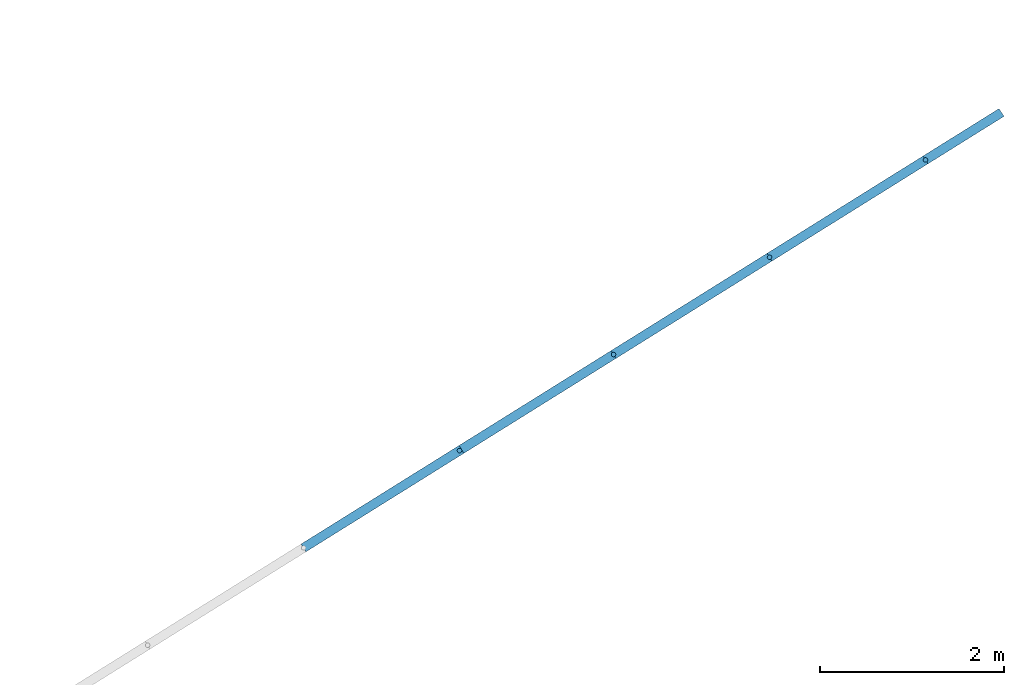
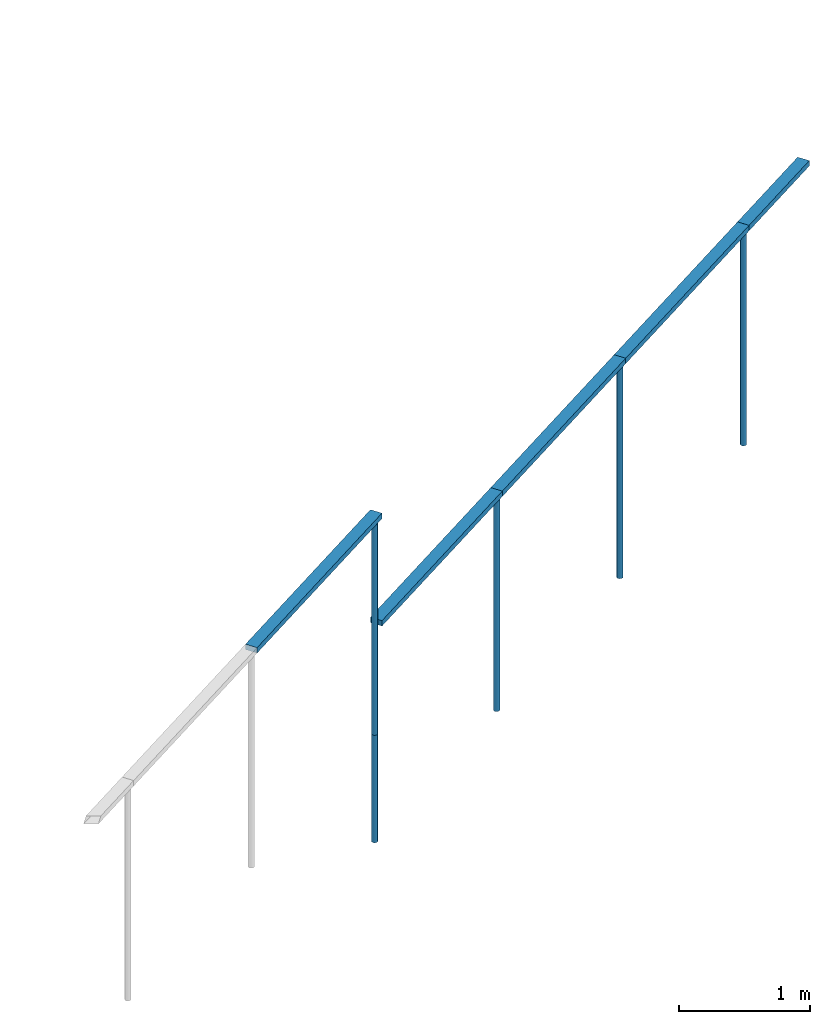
# One storey, part 3 of 3: 10 members, 2 elements without a shape of their own.
"""IFC2X3 building model written with IfcOpenShell, lengths in metres."""

from ifc_helpers import new_model, entity, si_unit, converted_unit, derived_unit, direction, frame, frame_2d, origin, origin_2d_with_axis, place, context, subcontext, project, spatial, rectangle, circle, extrude, clip, halfspace, source, transform, mapped, material, type_object, type_shapes, element, aggregate, save


model = new_model("IFC2X3")

# Units and contexts
model_context = context("Model", 3, precision=1e-05, world=origin(), true_north=direction((6.123031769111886e-17, 1.0)))
body_context = subcontext(model_context, "Body", "Model", "MODEL_VIEW")
ifc_project = project(units=[si_unit("LENGTHUNIT", "METRE"), si_unit("AREAUNIT", "SQUARE_METRE"), si_unit("VOLUMEUNIT", "CUBIC_METRE"), converted_unit("PLANEANGLEUNIT", "DEGREE", entity("IfcRatioMeasure", 0.017453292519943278), si_unit("PLANEANGLEUNIT", "RADIAN"), dimensions=[0, 0, 0, 0, 0, 0, 0]), si_unit("MASSUNIT", "GRAM", prefix="KILO"), derived_unit("MASSDENSITYUNIT", [(si_unit("MASSUNIT", "GRAM", prefix="KILO"), 1), (si_unit("LENGTHUNIT", "METRE"), -3)]), derived_unit("IONCONCENTRATIONUNIT", [(si_unit("MASSUNIT", "GRAM", prefix="KILO"), 1), (si_unit("LENGTHUNIT", "METRE"), -3)]), derived_unit("MOMENTOFINERTIAUNIT", [(si_unit("LENGTHUNIT", "METRE"), 4)]), si_unit("TIMEUNIT", "SECOND"), si_unit("FREQUENCYUNIT", "HERTZ"), si_unit("THERMODYNAMICTEMPERATUREUNIT", "DEGREE_CELSIUS"), derived_unit("THERMALTRANSMITTANCEUNIT", [(si_unit("MASSUNIT", "GRAM", prefix="KILO"), 1), (si_unit("THERMODYNAMICTEMPERATUREUNIT", "KELVIN"), -1), (si_unit("TIMEUNIT", "SECOND"), -3)]), derived_unit("THERMALCONDUCTANCEUNIT", [(si_unit("MASSUNIT", "GRAM", prefix="KILO"), 1), (si_unit("THERMODYNAMICTEMPERATUREUNIT", "KELVIN"), -1), (si_unit("TIMEUNIT", "SECOND"), -3), (si_unit("LENGTHUNIT", "METRE"), 1)]), derived_unit("VOLUMETRICFLOWRATEUNIT", [(si_unit("LENGTHUNIT", "METRE"), 3), (si_unit("TIMEUNIT", "SECOND"), -1)]), derived_unit("MASSFLOWRATEUNIT", [(si_unit("MASSUNIT", "GRAM", prefix="KILO"), 1), (si_unit("TIMEUNIT", "SECOND"), -1)]), derived_unit("ROTATIONALFREQUENCYUNIT", [(si_unit("TIMEUNIT", "SECOND"), -1)]), si_unit("ELECTRICCURRENTUNIT", "AMPERE"), si_unit("ELECTRICVOLTAGEUNIT", "VOLT"), si_unit("POWERUNIT", "WATT"), si_unit("FORCEUNIT", "NEWTON", prefix="KILO"), si_unit("ILLUMINANCEUNIT", "LUX"), si_unit("LUMINOUSFLUXUNIT", "LUMEN"), si_unit("LUMINOUSINTENSITYUNIT", "CANDELA"), derived_unit("USERDEFINED", [(si_unit("MASSUNIT", "GRAM", prefix="KILO"), -1), (si_unit("LENGTHUNIT", "METRE"), -2), (si_unit("TIMEUNIT", "SECOND"), 3), (si_unit("LUMINOUSFLUXUNIT", "LUMEN"), 1)]), derived_unit("USERDEFINED", [(si_unit("MASSUNIT", "GRAM", prefix="KILO"), 1), (si_unit("TIMEUNIT", "SECOND"), -3), (si_unit("LENGTHUNIT", "METRE"), 3), (si_unit("ELECTRICCURRENTUNIT", "AMPERE"), -2)]), derived_unit("SOUNDPOWERUNIT", [(si_unit("MASSUNIT", "GRAM", prefix="KILO"), 1), (si_unit("TIMEUNIT", "SECOND"), -3), (si_unit("LENGTHUNIT", "METRE"), 2)]), derived_unit("SOUNDPRESSUREUNIT", [(si_unit("MASSUNIT", "GRAM", prefix="KILO"), 1), (si_unit("LENGTHUNIT", "METRE"), -1), (si_unit("TIMEUNIT", "SECOND"), -2)]), derived_unit("LINEARVELOCITYUNIT", [(si_unit("LENGTHUNIT", "METRE"), 1), (si_unit("TIMEUNIT", "SECOND"), -1)]), si_unit("PRESSUREUNIT", "PASCAL"), derived_unit("USERDEFINED", [(si_unit("MASSUNIT", "GRAM", prefix="KILO"), 1), (si_unit("LENGTHUNIT", "METRE"), -2), (si_unit("TIMEUNIT", "SECOND"), -2)]), derived_unit("LINEARFORCEUNIT", [(si_unit("MASSUNIT", "GRAM", prefix="KILO"), 1), (si_unit("TIMEUNIT", "SECOND"), -2)]), derived_unit("PLANARFORCEUNIT", [(si_unit("MASSUNIT", "GRAM", prefix="KILO"), 1), (si_unit("LENGTHUNIT", "METRE"), -1), (si_unit("TIMEUNIT", "SECOND"), -2)]), derived_unit("SPECIFICHEATCAPACITYUNIT", [(si_unit("THERMODYNAMICTEMPERATUREUNIT", "KELVIN"), -1), (si_unit("LENGTHUNIT", "METRE"), 2), (si_unit("TIMEUNIT", "SECOND"), -2)]), derived_unit("HEATINGVALUEUNIT", [(si_unit("LENGTHUNIT", "METRE"), 2), (si_unit("TIMEUNIT", "SECOND"), -2)]), derived_unit("VAPORPERMEABILITYUNIT", [(si_unit("LENGTHUNIT", "METRE"), -1), (si_unit("TIMEUNIT", "SECOND"), 1)]), derived_unit("DYNAMICVISCOSITYUNIT", [(si_unit("MASSUNIT", "GRAM", prefix="KILO"), 1), (si_unit("TIMEUNIT", "SECOND"), -1), (si_unit("LENGTHUNIT", "METRE"), -1)]), derived_unit("THERMALEXPANSIONCOEFFICIENTUNIT", [(si_unit("THERMODYNAMICTEMPERATUREUNIT", "KELVIN"), -1)]), derived_unit("MODULUSOFELASTICITYUNIT", [(si_unit("MASSUNIT", "GRAM", prefix="KILO"), 1), (si_unit("LENGTHUNIT", "METRE"), -1), (si_unit("TIMEUNIT", "SECOND"), -2)]), derived_unit("ISOTHERMALMOISTURECAPACITYUNIT", [(si_unit("LENGTHUNIT", "METRE"), 3), (si_unit("MASSUNIT", "GRAM", prefix="KILO"), -1)]), derived_unit("MOISTUREDIFFUSIVITYUNIT", [(si_unit("TIMEUNIT", "SECOND"), -1), (si_unit("LENGTHUNIT", "METRE"), 2)])], contexts=[model_context])

# Site, building, storey
site_placement = place(None, origin())
site = spatial("IfcSite", under=ifc_project, at=site_placement, Name="Superficie", CompositionType="ELEMENT")
building_placement = place(site_placement, frame((0.0, 0.0, 235.0), z_axis=(0.0, 0.0, 1.0), x_axis=(-0.7996477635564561, 0.6004693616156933, 0.0)))
building = spatial("IfcBuilding", under=site, at=building_placement, CompositionType="ELEMENT")
storey_placement = place(building_placement, frame((0.0, 0.0, 3.400000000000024)))
storey = spatial("IfcBuildingStorey", under=building, at=storey_placement, Name="PC- Coberta STR", CompositionType="ELEMENT", Elevation=3.400000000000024)

# Curtain wall, members
curtain_wall_type = type_object("IfcCurtainWallType", Name="Muro cortina:SER EXT- Tanca exterior", PredefinedType="NOTDEFINED")
curtain_wall_1_placement = place(storey_placement, frame((0.0, 0.0, -3.400000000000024)))
curtain_wall_1 = element("IfcCurtainWall", 1, at=curtain_wall_1_placement, inside=storey, type_object=curtain_wall_type, Name="Muro cortina:SER EXT- Tanca exterior", ObjectType="Muro cortina:SER EXT- Tanca exterior")
ifc_material_1 = material(Name="Acero inoxidable")
member_type_1 = type_object("IfcMemberType", Name="Montante circular:Perfil Tanca exterior", PredefinedType="MULLION", material=ifc_material_1)
shared_shape_1 = source(origin(), body_context, "Body", "SweptSolid", [
    extrude(circle(Radius=0.025, at=frame_2d((-2.1149748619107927e-18, -4.0388614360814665e-17), x_axis=(1.0, 0.0))), frame((0.0, 0.0, -2.0), z_axis=(0.0, 0.0, 1.0), x_axis=(-1.0, 0.0, 0.0)), (0.0, 0.0, 1.0), 1.9999999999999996),
])
type_shapes(member_type_1, [shared_shape_1])
member_1_placement = place(curtain_wall_1_placement, frame((-8.929779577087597, -35.10367742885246, -3.974999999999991), z_axis=(0.0, 0.0, -1.0), x_axis=(-0.3606379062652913, -0.9327059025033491, 0.0)))
member_1 = element("IfcMember", 2, at=member_1_placement, type_object=member_type_1, material=ifc_material_1, Name="Montante circular:Perfil Tanca exterior", ObjectType="Montante circular:Perfil Tanca exterior", context=body_context, shape_type="MappedRepresentation", body=[
    mapped(shared_shape_1, transform((0.0, 0.0, 0.0), scale=1.0)),
])
member_2_placement = place(curtain_wall_1_placement, frame((-9.651055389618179, -36.969089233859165, -3.974999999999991), z_axis=(0.0, 0.0, -1.0), x_axis=(-0.3606379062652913, -0.9327059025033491, 0.0)))
member_2 = element("IfcMember", 3, at=member_2_placement, type_object=member_type_1, material=ifc_material_1, Name="Montante circular:Perfil Tanca exterior", ObjectType="Montante circular:Perfil Tanca exterior", context=body_context, shape_type="MappedRepresentation", body=[
    mapped(shared_shape_1, transform((0.0, 0.0, 0.0), scale=1.0)),
])
member_3_placement = place(curtain_wall_1_placement, frame((-10.37233120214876, -38.83450103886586, -3.974999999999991), z_axis=(0.0, 0.0, -1.0), x_axis=(-0.3606379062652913, -0.9327059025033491, 0.0)))
member_3 = element("IfcMember", 4, at=member_3_placement, type_object=member_type_1, material=ifc_material_1, Name="Montante circular:Perfil Tanca exterior", ObjectType="Montante circular:Perfil Tanca exterior", context=body_context, shape_type="MappedRepresentation", body=[
    mapped(shared_shape_1, transform((0.0, 0.0, 0.0), scale=1.0)),
])

# Curtain wall, member
curtain_wall_2_placement = place(storey_placement, frame((0.0, 0.0, -3.400000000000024)))
curtain_wall_2 = element("IfcCurtainWall", 5, at=curtain_wall_2_placement, inside=storey, type_object=curtain_wall_type, Name="Muro cortina:SER EXT- Tanca exterior", ObjectType="Muro cortina:SER EXT- Tanca exterior")
member_type_2 = type_object("IfcMemberType", Name="Montante circular:Perfil Tanca exterior", PredefinedType="MULLION", material=ifc_material_1)
shared_shape_2 = source(origin(), body_context, "Body", "SweptSolid", [
    extrude(circle(Radius=0.025, at=frame_2d((1.3661718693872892e-31, -4.46185640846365e-17), x_axis=(1.0, 0.0))), frame((-0.025, 0.0, -2.0), z_axis=(0.0, 0.0, 1.0), x_axis=(-1.0, 0.0, 0.0)), (0.0, 0.0, 1.0), 1.9999999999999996),
])
type_shapes(member_type_2, [shared_shape_2])
member_4_placement = place(curtain_wall_2_placement, frame((-8.226535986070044, -33.284900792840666, -2.974999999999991), z_axis=(0.0, 0.0, -1.0), x_axis=(-0.36065095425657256, -0.9327008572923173, 0.0)))
member_4 = element("IfcMember", 6, at=member_4_placement, type_object=member_type_2, material=ifc_material_1, Name="Montante circular:Perfil Tanca exterior", ObjectType="Montante circular:Perfil Tanca exterior", context=body_context, shape_type="MappedRepresentation", body=[
    mapped(shared_shape_2, transform((0.0, 0.0, 0.0), scale=1.0)),
])

# Member
member_type_3 = type_object("IfcMemberType", Name="Montante circular:Perfil Tanca exterior", PredefinedType="MULLION", material=ifc_material_1)
shared_shape_3 = source(origin(), body_context, "Body", "SweptSolid", [
    extrude(circle(Radius=0.025, at=frame_2d((-1.304992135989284e-31, 4.038861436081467e-17), x_axis=(1.0, 0.0))), frame((-0.025, 0.0, -2.0500000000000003)), (0.0, 0.0, 1.0), 2.0500000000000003),
])
type_shapes(member_type_3, [shared_shape_3])
member_5_placement = place(curtain_wall_1_placement, frame((-8.208503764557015, -33.23826562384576, -1.9249999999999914), z_axis=(0.0, 0.0, 1.0), x_axis=(0.3606379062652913, 0.9327059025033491, 0.0)))
member_5 = element("IfcMember", 7, at=member_5_placement, type_object=member_type_3, material=ifc_material_1, Name="Montante circular:Perfil Tanca exterior", ObjectType="Montante circular:Perfil Tanca exterior", context=body_context, shape_type="MappedRepresentation", body=[
    mapped(shared_shape_3, transform((0.0, 0.0, 0.0), scale=1.0)),
])

ifc_material_2 = material(Name="_Formigó- Solera- T1- STR")
member_type_4 = type_object("IfcMemberType", Name="Montante rectangular:Montante rectangular 100x50", PredefinedType="MULLION", material=ifc_material_2)
shared_shape_4 = source(origin(), body_context, "Body", "SweptSolid", [
    extrude(rectangle(XDim=0.1, YDim=0.05000000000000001, at=origin_2d_with_axis()), frame((-0.025000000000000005, 0.0, -1.9500000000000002), z_axis=(0.0, 0.0, 1.0), x_axis=(0.0, -1.0, 0.0)), (0.0, 0.0, 1.0), 1.9500000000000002),
])
type_shapes(member_type_4, [shared_shape_4])
member_6_placement = place(curtain_wall_1_placement, frame((-8.929779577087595, -35.10367742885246, -1.9249999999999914), z_axis=(-0.3606379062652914, -0.9327059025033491, 0.0), x_axis=(0.0, 0.0, 1.0)))
member_6 = element("IfcMember", 8, at=member_6_placement, type_object=member_type_4, material=ifc_material_2, Name="Montante rectangular:Montante rectangular 100x50", ObjectType="Montante rectangular:Montante rectangular 100x50", context=body_context, shape_type="MappedRepresentation", body=[
    mapped(shared_shape_4, transform((0.0, 0.0, 0.0), scale=1.0)),
])

member_type_5 = type_object("IfcMemberType", Name="Montante rectangular:Montante rectangular 100x50", PredefinedType="MULLION", material=ifc_material_2)
shared_shape_5 = source(origin(), body_context, "Body", "SweptSolid", [
    extrude(rectangle(XDim=0.1, YDim=0.05000000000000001, at=origin_2d_with_axis()), frame((-0.025000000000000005, 0.0, -2.0), z_axis=(0.0, 0.0, 1.0), x_axis=(0.0, -1.0, 0.0)), (0.0, 0.0, 1.0), 2.0000000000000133),
])
type_shapes(member_type_5, [shared_shape_5])
member_7_placement = place(curtain_wall_1_placement, frame((-9.65105538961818, -36.969089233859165, -1.9249999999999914), z_axis=(-0.3606379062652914, -0.9327059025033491, 0.0), x_axis=(0.0, 0.0, 1.0)))
member_7 = element("IfcMember", 9, at=member_7_placement, type_object=member_type_5, material=ifc_material_2, Name="Montante rectangular:Montante rectangular 100x50", ObjectType="Montante rectangular:Montante rectangular 100x50", context=body_context, shape_type="MappedRepresentation", body=[
    mapped(shared_shape_5, transform((0.0, 0.0, 0.0), scale=1.0)),
])

member_8_placement = place(curtain_wall_1_placement, frame((-10.372331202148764, -38.83450103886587, -1.9249999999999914), z_axis=(-0.360637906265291, -0.9327059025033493, 0.0), x_axis=(0.0, 0.0, 1.0)))
member_8 = element("IfcMember", 10, at=member_8_placement, type_object=member_type_5, material=ifc_material_2, Name="Montante rectangular:Montante rectangular 100x50", ObjectType="Montante rectangular:Montante rectangular 100x50", context=body_context, shape_type="MappedRepresentation", body=[
    mapped(shared_shape_5, transform((0.0, 0.0, 0.0), scale=1.0)),
])

member_type_6 = type_object("IfcMemberType", Name="Montante rectangular:Montante rectangular 100x50", PredefinedType="MULLION", material=ifc_material_2)
shared_shape_6 = source(origin(), body_context, "Body", "SweptSolid", [
    extrude(rectangle(XDim=0.1, YDim=0.05000000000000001, at=origin_2d_with_axis()), frame((-0.025000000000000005, 0.0, -2.0245070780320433), z_axis=(0.0, 0.0, 1.0), x_axis=(0.0, -1.0, 0.0)), (0.0, 0.0, 1.0), 2.0245070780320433),
])
type_shapes(member_type_6, [shared_shape_6])
member_9_placement = place(curtain_wall_2_placement, frame((-8.226535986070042, -33.284900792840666, -0.9249999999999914), z_axis=(-0.36065095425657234, -0.9327008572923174, 0.0), x_axis=(0.0, 0.0, 1.0)))
member_9 = element("IfcMember", 11, at=member_9_placement, type_object=member_type_6, material=ifc_material_2, Name="Montante rectangular:Montante rectangular 100x50", ObjectType="Montante rectangular:Montante rectangular 100x50", context=body_context, shape_type="MappedRepresentation", body=[
    mapped(shared_shape_6, transform((0.0, 0.0, 0.0), scale=1.0)),
])

aggregate(curtain_wall_2, [member_4, member_9])

member_type_7 = type_object("IfcMemberType", Name="Montante rectangular:Montante rectangular 100x50", PredefinedType="MULLION", material=ifc_material_2)
shared_shape_7 = source(origin(), body_context, "Body", "SweptSolid", [
    clip(extrude(rectangle(XDim=0.1, YDim=0.05000000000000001, at=origin_2d_with_axis()), frame((-0.025000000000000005, 0.0, -0.974680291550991), z_axis=(0.0, 0.0, 1.0), x_axis=(0.0, -1.0, 0.0)), (0.0, 0.0, 1.0), 0.9753633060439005), halfspace(frame((0.3048, 0.0, 0.0), z_axis=(0.0, -0.013659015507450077, 0.9999067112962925), x_axis=(0.0, -0.9999067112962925, -0.013659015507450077)), False)),
])
type_shapes(member_type_7, [shared_shape_7])
member_10_placement = place(curtain_wall_1_placement, frame((-10.723837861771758, -39.74359109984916, -1.9249999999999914), z_axis=(-0.3606379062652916, -0.9327059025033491, 0.0), x_axis=(0.0, 0.0, 1.0)))
member_10 = element("IfcMember", 12, at=member_10_placement, type_object=member_type_7, material=ifc_material_2, Name="Montante rectangular:Montante rectangular 100x50", ObjectType="Montante rectangular:Montante rectangular 100x50", context=body_context, shape_type="MappedRepresentation", body=[
    mapped(shared_shape_7, transform((0.0, 0.0, 0.0), scale=1.0)),
])

aggregate(curtain_wall_1, [member_5, member_1, member_2, member_3, member_10, member_6, member_7, member_8])

save(model, "model.ifc")
